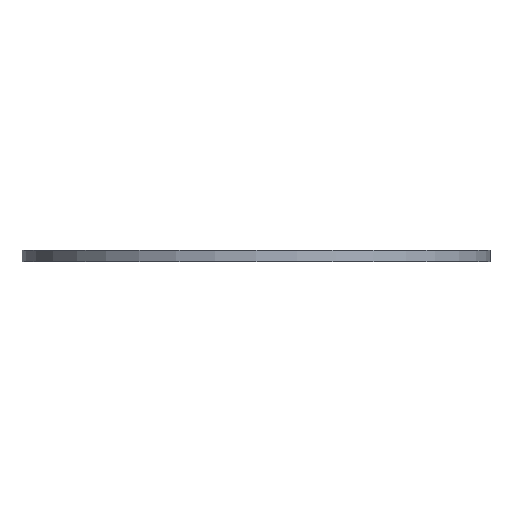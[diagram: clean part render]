
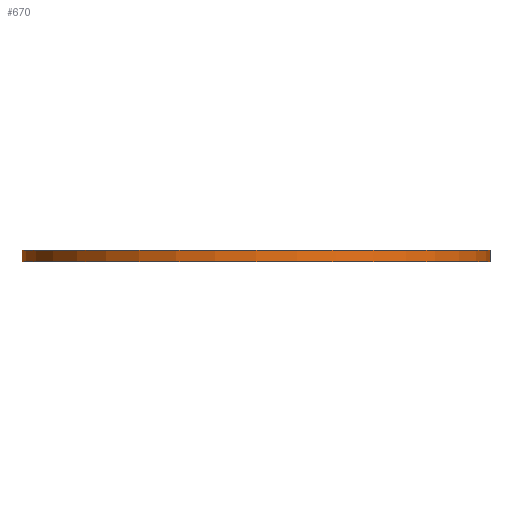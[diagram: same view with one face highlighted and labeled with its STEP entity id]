
A CAD part, front view. The second image highlights one B-rep face of the part: STEP entity #670.
In plain terms, the highlighted cylindrical face has radius 63 mm (diameter 126 mm), a partial arc.
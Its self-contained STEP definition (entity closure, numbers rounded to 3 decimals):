
#139 = CIRCLE ( 'NONE', #1896, 63. ) ;
#155 = VERTEX_POINT ( 'NONE', #1029 ) ;
#220 = EDGE_CURVE ( 'NONE', #2129, #155, #743, .T. ) ;
#312 = DIRECTION ( 'NONE',  ( 1., 0., 0. ) ) ;
#325 = ORIENTED_EDGE ( 'NONE', *, *, #1453, .F. ) ;
#395 = LINE ( 'NONE', #884, #686 ) ;
#445 = VECTOR ( 'NONE', #2086, 1000. ) ;
#501 = ORIENTED_EDGE ( 'NONE', *, *, #1237, .F. ) ;
#526 = DIRECTION ( 'NONE',  ( 0., 0., 1. ) ) ;
#537 = CARTESIAN_POINT ( 'NONE',  ( 0., 0., 3. ) ) ;
#581 = AXIS2_PLACEMENT_3D ( 'NONE', #537, #1532, #1391 ) ;
#631 = CARTESIAN_POINT ( 'NONE',  ( -63., 0., 3. ) ) ;
#670 = ADVANCED_FACE ( 'NONE', ( #1544 ), #1856, .T. ) ;
#673 = EDGE_LOOP ( 'NONE', ( #501, #325, #770, #1590 ) ) ;
#686 = VECTOR ( 'NONE', #871, 1000. ) ;
#743 = LINE ( 'NONE', #1932, #445 ) ;
#770 = ORIENTED_EDGE ( 'NONE', *, *, #220, .T. ) ;
#811 = CARTESIAN_POINT ( 'NONE',  ( 63., 0., 0. ) ) ;
#871 = DIRECTION ( 'NONE',  ( 0., 0., -1. ) ) ;
#873 = DIRECTION ( 'NONE',  ( 1., 0., 0. ) ) ;
#879 = EDGE_CURVE ( 'NONE', #155, #2179, #1776, .T. ) ;
#884 = CARTESIAN_POINT ( 'NONE',  ( 63., 0., 3. ) ) ;
#1028 = DIRECTION ( 'NONE',  ( 0., 0., 1. ) ) ;
#1029 = CARTESIAN_POINT ( 'NONE',  ( -63., 0., 0. ) ) ;
#1116 = AXIS2_PLACEMENT_3D ( 'NONE', #1702, #526, #873 ) ;
#1181 = VERTEX_POINT ( 'NONE', #1209 ) ;
#1209 = CARTESIAN_POINT ( 'NONE',  ( 63., 0., 3. ) ) ;
#1237 = EDGE_CURVE ( 'NONE', #1181, #2179, #395, .T. ) ;
#1391 = DIRECTION ( 'NONE',  ( -1., 0., 0. ) ) ;
#1453 = EDGE_CURVE ( 'NONE', #2129, #1181, #139, .T. ) ;
#1532 = DIRECTION ( 'NONE',  ( 0., 0., -1. ) ) ;
#1544 = FACE_OUTER_BOUND ( 'NONE', #673, .T. ) ;
#1590 = ORIENTED_EDGE ( 'NONE', *, *, #879, .T. ) ;
#1702 = CARTESIAN_POINT ( 'NONE',  ( 0., 0., 0. ) ) ;
#1776 = CIRCLE ( 'NONE', #1116, 63. ) ;
#1856 = CYLINDRICAL_SURFACE ( 'NONE', #581, 63. ) ;
#1857 = CARTESIAN_POINT ( 'NONE',  ( 0., 0., 3. ) ) ;
#1896 = AXIS2_PLACEMENT_3D ( 'NONE', #1857, #1028, #312 ) ;
#1932 = CARTESIAN_POINT ( 'NONE',  ( -63., 0., 3. ) ) ;
#2086 = DIRECTION ( 'NONE',  ( 0., 0., -1. ) ) ;
#2129 = VERTEX_POINT ( 'NONE', #631 ) ;
#2179 = VERTEX_POINT ( 'NONE', #811 ) ;
